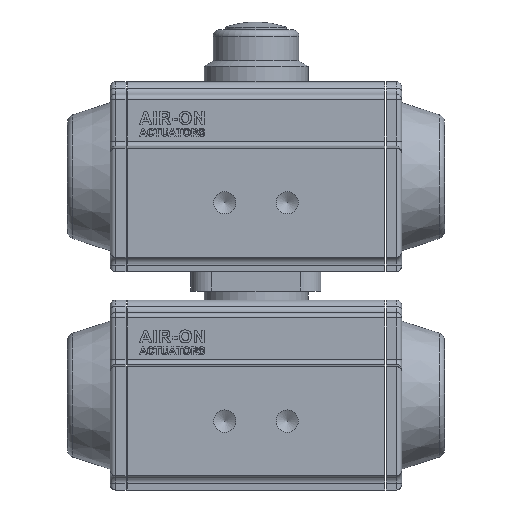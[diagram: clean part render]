
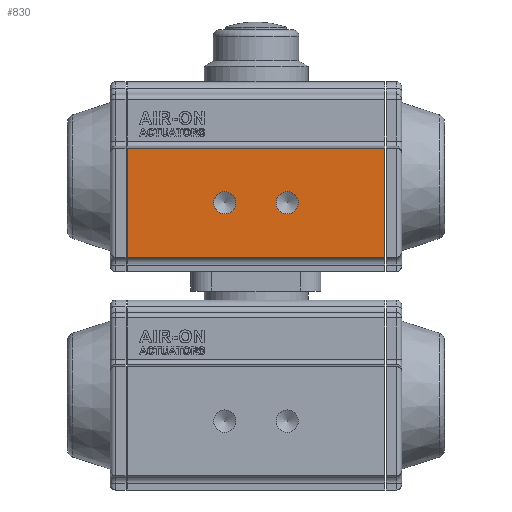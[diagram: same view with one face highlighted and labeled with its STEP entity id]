
A CAD part, front view. The second image highlights one B-rep face of the part: STEP entity #830.
In plain terms, the highlighted planar face has unit normal (0, -1, 0).
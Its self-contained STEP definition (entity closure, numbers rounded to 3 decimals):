
#830 = ADVANCED_FACE( '', ( #2126, #2127, #2128 ), #2129, .T. );
#2126 = FACE_BOUND( '', #4506, .T. );
#2127 = FACE_BOUND( '', #4507, .T. );
#2128 = FACE_OUTER_BOUND( '', #4508, .T. );
#2129 = PLANE( '', #4509 );
#4506 = EDGE_LOOP( '', ( #8488 ) );
#4507 = EDGE_LOOP( '', ( #8489 ) );
#4508 = EDGE_LOOP( '', ( #8490, #8491, #8492, #8493 ) );
#4509 = AXIS2_PLACEMENT_3D( '', #8494, #8495, #8496 );
#8488 = ORIENTED_EDGE( '', *, *, #13057, .T. );
#8489 = ORIENTED_EDGE( '', *, *, #12862, .T. );
#8490 = ORIENTED_EDGE( '', *, *, #13385, .F. );
#8491 = ORIENTED_EDGE( '', *, *, #13379, .F. );
#8492 = ORIENTED_EDGE( '', *, *, #13386, .T. );
#8493 = ORIENTED_EDGE( '', *, *, #13387, .T. );
#8494 = CARTESIAN_POINT( '', ( 49.5, -42., -31. ) );
#8495 = DIRECTION( '', ( 0., -1., 0. ) );
#8496 = DIRECTION( '', ( 0., 0., -1. ) );
#12862 = EDGE_CURVE( '', #14773, #14773, #14774, .T. );
#13057 = EDGE_CURVE( '', #15121, #15121, #15122, .T. );
#13379 = EDGE_CURVE( '', #15673, #15669, #15675, .T. );
#13385 = EDGE_CURVE( '', #15669, #15684, #15685, .T. );
#13386 = EDGE_CURVE( '', #15673, #15686, #15687, .T. );
#13387 = EDGE_CURVE( '', #15686, #15684, #15688, .T. );
#14773 = VERTEX_POINT( '', #17572 );
#14774 = CIRCLE( '', #17573, 4.283 );
#15121 = VERTEX_POINT( '', #18575 );
#15122 = CIRCLE( '', #18576, 4.283 );
#15669 = VERTEX_POINT( '', #19689 );
#15673 = VERTEX_POINT( '', #19695 );
#15675 = LINE( '', #19698, #19699 );
#15684 = VERTEX_POINT( '', #19711 );
#15685 = LINE( '', #19712, #19713 );
#15686 = VERTEX_POINT( '', #19714 );
#15687 = LINE( '', #19715, #19716 );
#15688 = LINE( '', #19717, #19718 );
#17572 = CARTESIAN_POINT( '', ( 12., -42., -14.283 ) );
#17573 = AXIS2_PLACEMENT_3D( '', #24654, #24655, #24656 );
#18575 = CARTESIAN_POINT( '', ( -12., -42., -14.283 ) );
#18576 = AXIS2_PLACEMENT_3D( '', #24846, #24847, #24848 );
#19689 = CARTESIAN_POINT( '', ( -49.5, -42., -31. ) );
#19695 = CARTESIAN_POINT( '', ( 49.5, -42., -31. ) );
#19698 = CARTESIAN_POINT( '', ( 49.5, -42., -31. ) );
#19699 = VECTOR( '', #25091, 1000. );
#19711 = CARTESIAN_POINT( '', ( -49.5, -42., 11. ) );
#19712 = CARTESIAN_POINT( '', ( -49.5, -42., -31. ) );
#19713 = VECTOR( '', #25092, 1000. );
#19714 = CARTESIAN_POINT( '', ( 49.5, -42., 11. ) );
#19715 = CARTESIAN_POINT( '', ( 49.5, -42., -31. ) );
#19716 = VECTOR( '', #25093, 1000. );
#19717 = CARTESIAN_POINT( '', ( 49.5, -42., 11. ) );
#19718 = VECTOR( '', #25094, 1000. );
#24654 = CARTESIAN_POINT( '', ( 12., -42., -10. ) );
#24655 = DIRECTION( '', ( 0., 1., 0. ) );
#24656 = DIRECTION( '', ( 0., 0., -1. ) );
#24846 = CARTESIAN_POINT( '', ( -12., -42., -10. ) );
#24847 = DIRECTION( '', ( 0., 1., 0. ) );
#24848 = DIRECTION( '', ( 0., 0., -1. ) );
#25091 = DIRECTION( '', ( -1., 0., 0. ) );
#25092 = DIRECTION( '', ( 0., 0., 1. ) );
#25093 = DIRECTION( '', ( 0., 0., 1. ) );
#25094 = DIRECTION( '', ( -1., 0., 0. ) );
